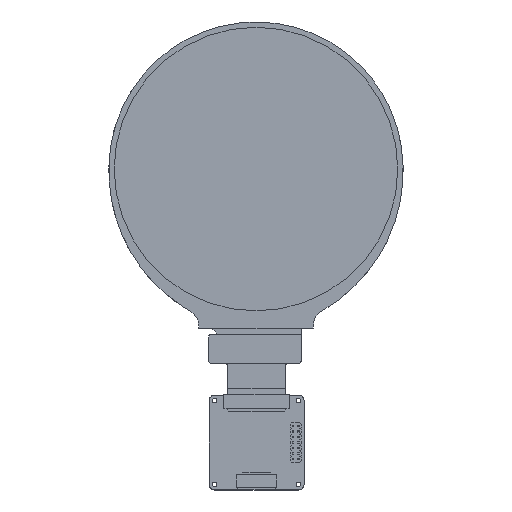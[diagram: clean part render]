
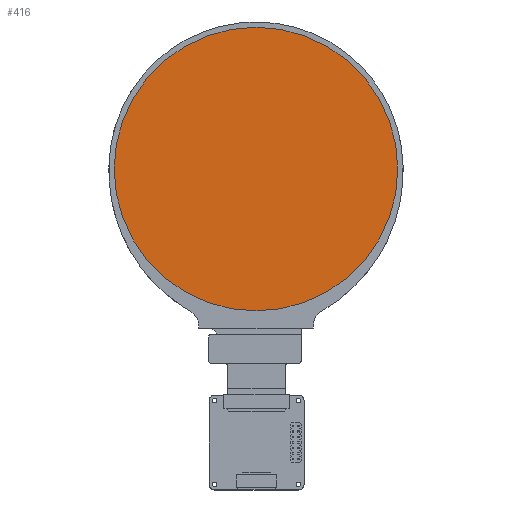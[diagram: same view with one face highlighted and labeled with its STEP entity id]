
A CAD part, top view. The second image highlights one B-rep face of the part: STEP entity #416.
In plain terms, the highlighted planar face has unit normal (0, 0, 1).
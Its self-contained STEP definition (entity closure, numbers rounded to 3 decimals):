
#220=CARTESIAN_POINT('',(0.,2.158,2.3));
#221=DIRECTION('',(0.,0.,1.));
#222=DIRECTION('',(-1.,0.,0.));
#223=AXIS2_PLACEMENT_3D('',#220,#221,#222);
#225=CARTESIAN_POINT('',(0.,2.158,2.3));
#226=DIRECTION('',(0.,0.,1.));
#227=DIRECTION('',(1.,0.,0.));
#228=AXIS2_PLACEMENT_3D('',#225,#226,#227);
#236=CARTESIAN_POINT('',(-50.76,2.158,2.3));
#237=CARTESIAN_POINT('',(50.76,2.158,2.3));
#238=VERTEX_POINT('',#236);
#239=VERTEX_POINT('',#237);
#407=CARTESIAN_POINT('',(0.,0.,2.3));
#408=DIRECTION('',(0.,0.,1.));
#409=DIRECTION('',(1.,0.,0.));
#410=AXIS2_PLACEMENT_3D('',#407,#408,#409);
#411=PLANE('',#410);
#412=ORIENTED_EDGE('',*,*,#393,.F.);
#413=ORIENTED_EDGE('',*,*,#395,.F.);
#414=EDGE_LOOP('',(#412,#413));
#415=FACE_OUTER_BOUND('',#414,.F.);
#224=CIRCLE('',#223,50.76);
#229=CIRCLE('',#228,50.76);
#393=EDGE_CURVE('',#238,#239,#224,.T.);
#395=EDGE_CURVE('',#239,#238,#229,.T.);
#416=ADVANCED_FACE('',(#415),#411,.T.);
